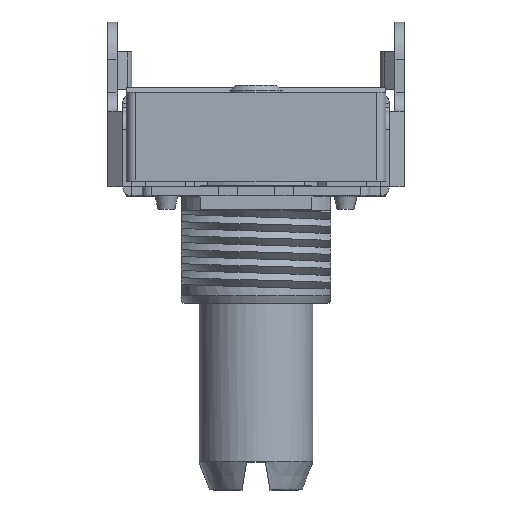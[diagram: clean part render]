
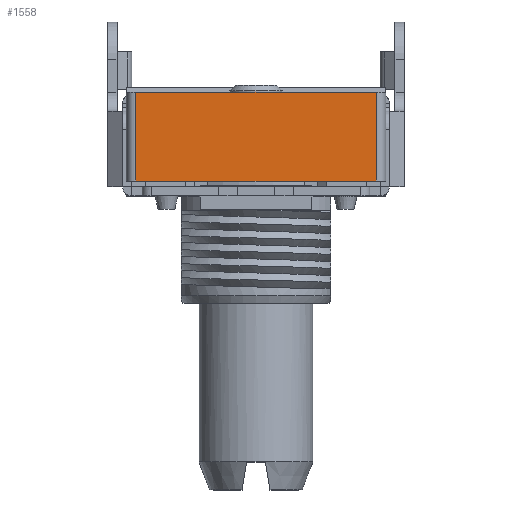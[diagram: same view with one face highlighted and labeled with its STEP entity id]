
A CAD part, top view. The second image highlights one B-rep face of the part: STEP entity #1558.
In plain terms, the highlighted planar face has unit normal (0, 0, 1) as drawn and (0, 1, 0) by its records, which use the part's own axes.
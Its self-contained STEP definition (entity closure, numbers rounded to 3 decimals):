
#687 = EDGE_CURVE ( 'NONE', #28754, #29046, #6694, .T. ) ;
#755 = EDGE_CURVE ( 'NONE', #28802, #29073, #6816, .T. ) ;
#944 = EDGE_CURVE ( 'NONE', #29046, #29073, #7149, .T. ) ;
#1558 = ADVANCED_FACE ( 'NONE', ( #25504 ), #24706, .F. ) ;
#2887 = ORIENTED_EDGE ( 'NONE', *, *, #755, .T. ) ;
#2888 = ORIENTED_EDGE ( 'NONE', *, *, #944, .F. ) ;
#2889 = ORIENTED_EDGE ( 'NONE', *, *, #687, .F. ) ;
#2890 = ORIENTED_EDGE ( 'NONE', *, *, #3035, .T. ) ;
#3035 = EDGE_CURVE ( 'NONE', #28754, #28802, #25636, .T. ) ;
#4347 = EDGE_LOOP ( 'NONE', ( #2887, #2888, #2889, #2890 ) ) ;
#6694 = LINE ( 'NONE', #7436, #6695 ) ;
#6695 = VECTOR ( 'NONE', #7437, 1000. ) ;
#6812 = VECTOR ( 'NONE', #7586, 1000. ) ;
#6816 = LINE ( 'NONE', #7585, #6812 ) ;
#7149 = LINE ( 'NONE', #8014, #7150 ) ;
#7150 = VECTOR ( 'NONE', #8015, 1000. ) ;
#7436 = CARTESIAN_POINT ( 'NONE',  ( 5.288, 7.368, -5.25 ) ) ;
#7437 = DIRECTION ( 'NONE',  ( -1., 0., 0. ) ) ;
#7585 = CARTESIAN_POINT ( 'NONE',  ( 5.288, 7.368, -10. ) ) ;
#7586 = DIRECTION ( 'NONE',  ( -1., 0., 0. ) ) ;
#8014 = CARTESIAN_POINT ( 'NONE',  ( -7.612, 7.368, -5.25 ) ) ;
#8015 = DIRECTION ( 'NONE',  ( 0., 0., -1. ) ) ;
#23535 = AXIS2_PLACEMENT_3D ( 'NONE', #24705, #24715, #24716 ) ;
#24705 = CARTESIAN_POINT ( 'NONE',  ( 5.288, 7.368, -5.25 ) ) ;
#24706 = PLANE ( 'NONE',  #23535 ) ;
#24715 = DIRECTION ( 'NONE',  ( 0., -1., 0. ) ) ;
#24716 = DIRECTION ( 'NONE',  ( 0., 0., -1. ) ) ;
#24997 = CARTESIAN_POINT ( 'NONE',  ( 5.288, 7.368, -5.25 ) ) ;
#24998 = DIRECTION ( 'NONE',  ( 0., 0., -1. ) ) ;
#25504 = FACE_OUTER_BOUND ( 'NONE', #4347, .T. ) ;
#25636 = LINE ( 'NONE', #24997, #25637 ) ;
#25637 = VECTOR ( 'NONE', #24998, 1000. ) ;
#27595 = CARTESIAN_POINT ( 'NONE',  ( 5.288, 7.368, -5.25 ) ) ;
#27642 = CARTESIAN_POINT ( 'NONE',  ( 5.288, 7.368, -10. ) ) ;
#27800 = CARTESIAN_POINT ( 'NONE',  ( -7.612, 7.368, -5.25 ) ) ;
#27815 = CARTESIAN_POINT ( 'NONE',  ( -7.612, 7.368, -10. ) ) ;
#28754 = VERTEX_POINT ( 'NONE', #27595 ) ;
#28802 = VERTEX_POINT ( 'NONE', #27642 ) ;
#29046 = VERTEX_POINT ( 'NONE', #27800 ) ;
#29073 = VERTEX_POINT ( 'NONE', #27815 ) ;
